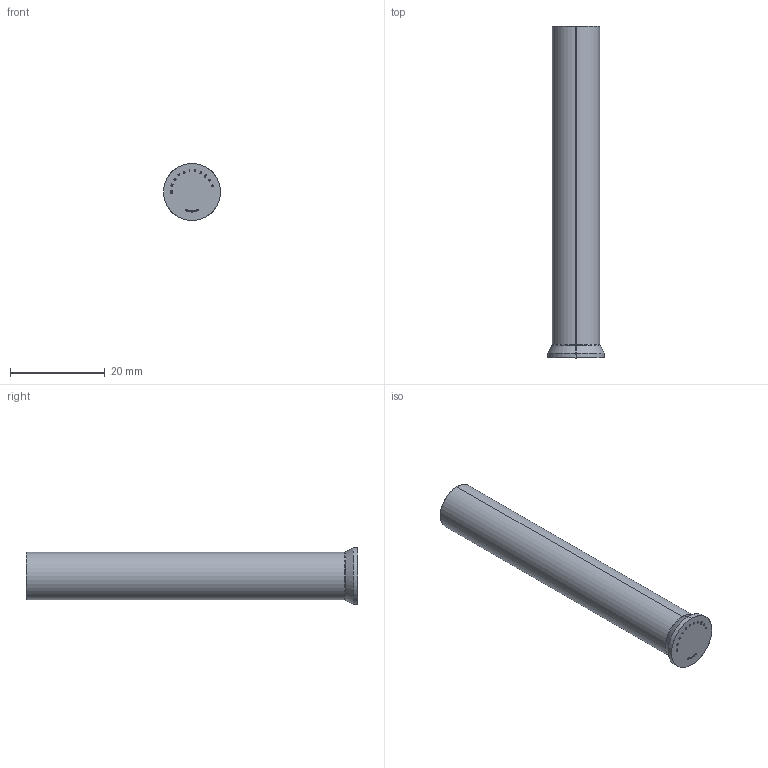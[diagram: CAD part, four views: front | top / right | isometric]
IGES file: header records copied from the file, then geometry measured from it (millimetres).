
Start section: SolidWorks IGES file using analytic representation for surfaces
Global section: file name: D:\Cleonir_particular\Matripeças\Pinos Extradores D DIN 1530\PD10,0070.IGS; native system: SolidWorks 2013; preprocessor: SolidWorks 2013; author: Cleonir; date: 130304.142500; units: millimetre
Bounding box: 12 x 70 x 12 mm (x, y, z)
Surface area: 2421.6 mm2 (no closed solid volume)
Topology: 0 solids, 0 shells, 273 faces, 2229 edges, 2229 vertices
Faces by surface type: bspline 259, revolution 14
